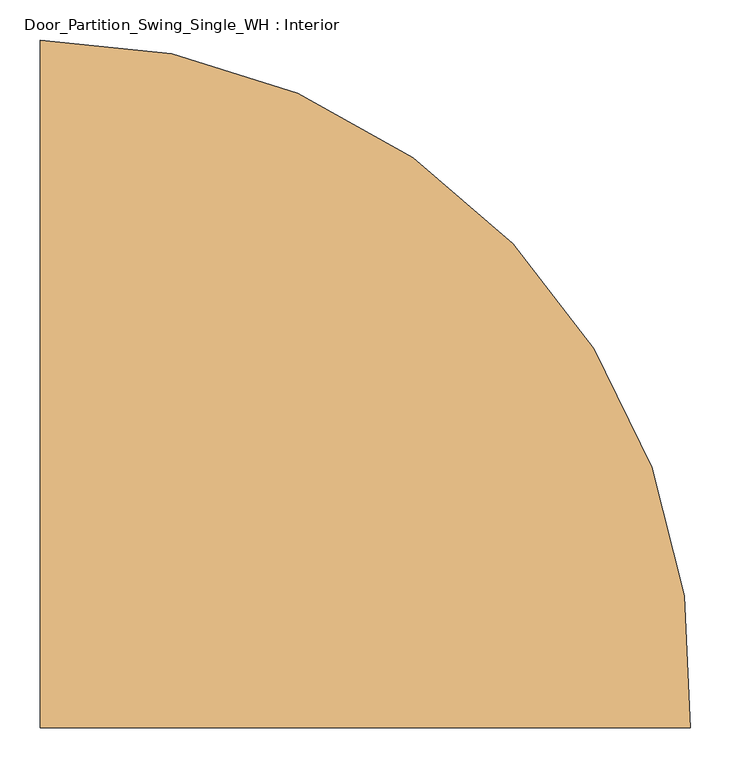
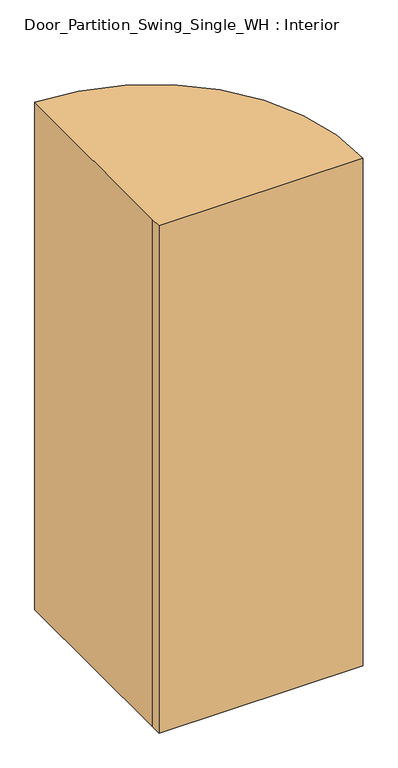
"""IFC4 building model written with IfcOpenShell, lengths in millimetres: door geometry, Door_Partition_Swing_Single_WH : Interior."""

from ifc_helpers import new_model, si_unit, point, frame_2d, origin, origin_with_axes, place, context, project, spatial, polyline, circle_curve, trimmed, segment, composite_curve, outline, extrude, source, transform, mapped, element, save


def door_partition_swing_single_wh_interior_49d02ec1(model_context):
    return source(origin(), model_context, "Body", "SweptSolid", [
        extrude(outline(composite_curve([segment(polyline([(-388.0346798, 80.55), (-388.0346798, 125.0), (-388.0346798, 937.8)]), True, "CONTINUOUS"), segment(trimmed(circle_curve(frame_2d((-388.0346798, 125.0)), 812.8), [point((-388.0346798, 937.8))], [point((423.5489803, 80.55))], False, "CARTESIAN"), True, "CONTINUOUS"), segment(polyline([(423.5489803, 80.55), (-388.0346798, 80.55)]), True, "CONTINUOUS")], self_intersect=False)), origin_with_axes(), (0.0, 0.0, 1.0), 2133.6),
    ])


if __name__ == "__main__":
    model = new_model("IFC4")
    model_context = context("Model", 3, world=origin())
    ifc_project = project(units=[si_unit("LENGTHUNIT", "METRE", prefix="MILLI")], contexts=[model_context])
    site = spatial("IfcSite", under=ifc_project)
    building = spatial("IfcBuilding", under=site)
    placement = place(None, origin())
    door_partition_swing_single_wh_interior_shape = door_partition_swing_single_wh_interior_49d02ec1(model_context)
    element("IfcDoor", 1, ObjectType="Door_Partition_Swing_Single_WH : Interior", at=placement, inside=building, context=model_context, shape_type="MappedRepresentation", body=[
        mapped(door_partition_swing_single_wh_interior_shape, transform((0.0, 0.0, 0.0), x_axis=(1.0, 0.0, 0.0), y_axis=(0.0, 1.0, 0.0), z_axis=(0.0, 0.0, 1.0))),
    ])
    save(model, "model.ifc")
